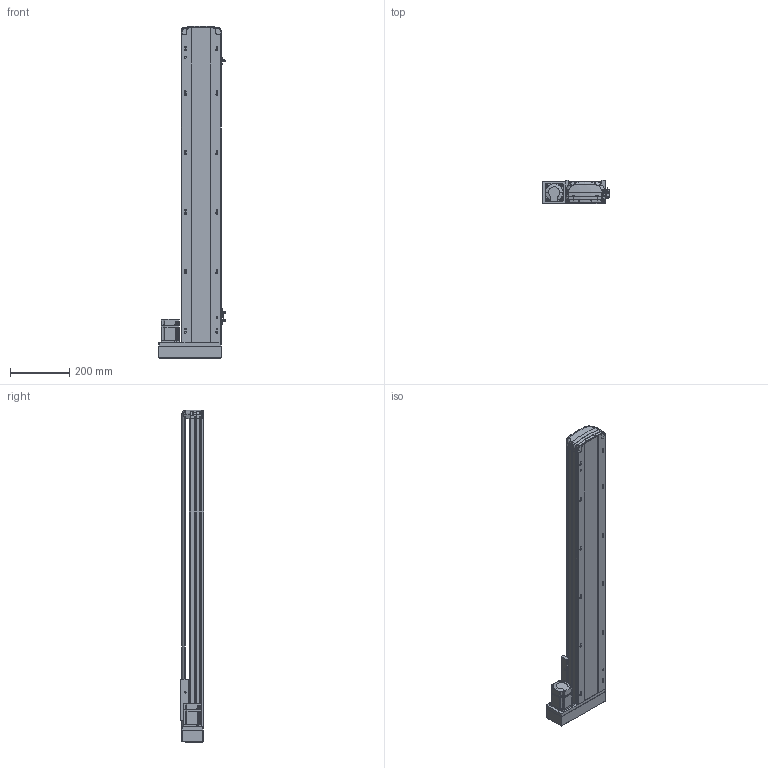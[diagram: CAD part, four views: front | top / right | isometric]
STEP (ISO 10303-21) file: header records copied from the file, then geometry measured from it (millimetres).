
FILE_DESCRIPTION (( 'STEP AP214' ), '1' );
FILE_NAME ('RTH14-XX-850-L-M20-C4.STEP', '2025-10-25T02:40:23', ( 'Microsoft' ), ( 'Microsoft' ), 'SwSTEP 2.0', 'SolidWorks 2018', '' );
FILE_SCHEMA (( 'AUTOMOTIVE_DESIGN' ));
Length unit declared in the file: millimetre
Products named in the file (10): N_RTH14-M-007P奻裔^RTH14-XX-XX-L-M20-C4; N_RTH14-M-011P菁釱^RTH14-XX-XX-L-M20-C4; N_MSMD022P1AA_200W^RTH14-XX-XX-L-M20-C4; N_RTH13-L-008-P20 萇儂啣酘蛌殏^RTH14-XX-XX-L-M20-C4; N_RTH13-L-012感应片（外置）^RTH14-XX-XX-L-M20-C4; N_RTH14-GY-001P^RTH14-XX-XX-L-M20-C4; N_RTH14-R-004-SFSR16賑釱^RTH14-XX-XX-L-M20-C4; N_OMRON EE-SX672 传感器^RTH14-XX-XX-L-M20-C4; RTH14-XX-850-L-M20-C4; N_RTH13-L-018 裔赽^RTH14-XX-XX-L-M20-C4
Assembly tree (11 placements, depth 2):
  RTH14-XX-850-L-M20-C4
    N_RTH14-M-011P菁釱^RTH14-XX-XX-L-M20-C4
    N_RTH14-M-007P奻裔^RTH14-XX-XX-L-M20-C4
    N_MSMD022P1AA_200W^RTH14-XX-XX-L-M20-C4
    N_RTH13-L-008-P20 萇儂啣酘蛌殏^RTH14-XX-XX-L-M20-C4
    N_RTH13-L-018 裔赽^RTH14-XX-XX-L-M20-C4
    N_RTH13-L-012感应片（外置）^RTH14-XX-XX-L-M20-C4
    N_OMRON EE-SX672 传感器^RTH14-XX-XX-L-M20-C4  x3
    N_RTH14-GY-001P^RTH14-XX-XX-L-M20-C4
    N_RTH14-R-004-SFSR16賑釱^RTH14-XX-XX-L-M20-C4
Bounding box: 224 x 78.03 x 1117.49 mm (x, y, z)
Volume: 4895183.4 mm3; surface area: 1133138.8 mm2
Topology: 11 solids, 11 shells, 1882 faces, 5261 edges, 3446 vertices
Faces by surface type: plane 991, cylinder 497, bspline 345, cone 45, torus 4
Entity records: 57531 total; most frequent: CARTESIAN_POINT 23131, ORIENTED_EDGE 7590, DIRECTION 6112, EDGE_CURVE 3795, VERTEX_POINT 2482, VECTOR 2168, LINE 2168, AXIS2_PLACEMENT_3D 1972
